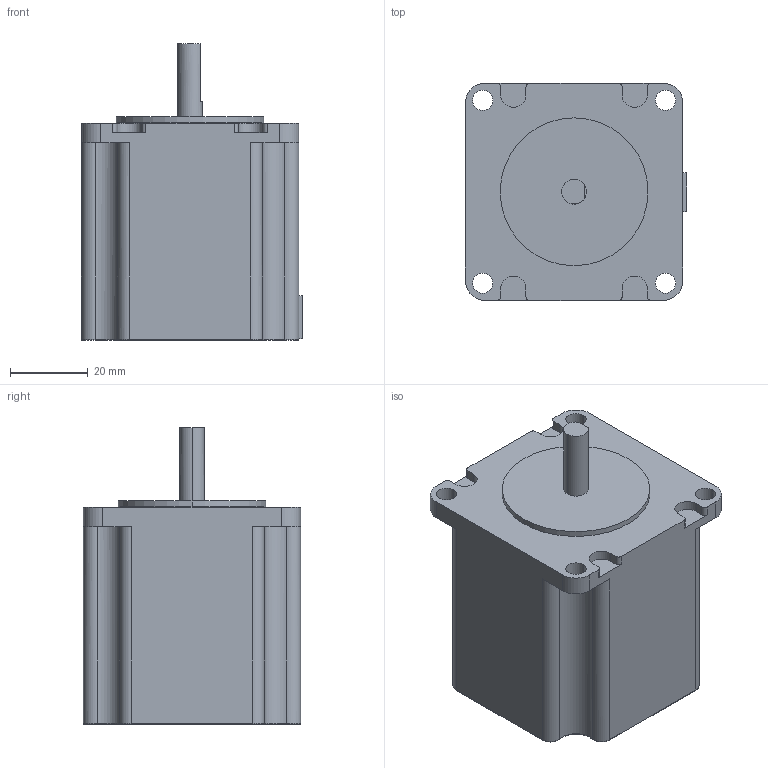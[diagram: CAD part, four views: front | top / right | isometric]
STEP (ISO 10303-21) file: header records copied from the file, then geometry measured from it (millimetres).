
FILE_DESCRIPTION((''),'2;1');
FILE_NAME('PRT0001','2021-11-10T09:54:02',('qingl'),(''),'CREO PARAMETRIC BY PTC INC, 2019224','CREO PARAMETRIC BY PTC INC, 2019224','');
FILE_SCHEMA(('CONFIG_CONTROL_DESIGN'));
Length unit declared in the file: millimetre
Products named in the file (1): PRT0001
Bounding box: 57 x 56 x 76.5 mm (x, y, z)
Volume: 158383.9 mm3; surface area: 21526 mm2
Topology: 2 solids, 3 shells, 256 faces, 718 edges, 476 vertices
Faces by surface type: cylinder 190, plane 44, torus 12, bspline 8, cone 2
Entity records: 12845 total; most frequent: CARTESIAN_POINT 6593, ORIENTED_EDGE 1436, DIRECTION 1104, EDGE_CURVE 718, VERTEX_POINT 476, AXIS2_PLACEMENT_3D 414, VECTOR 276, LINE 276
